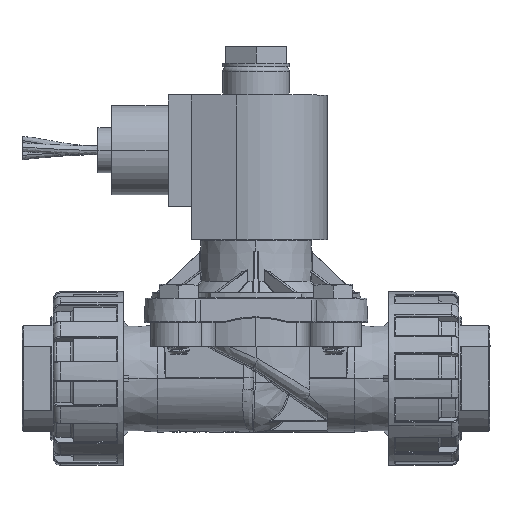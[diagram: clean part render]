
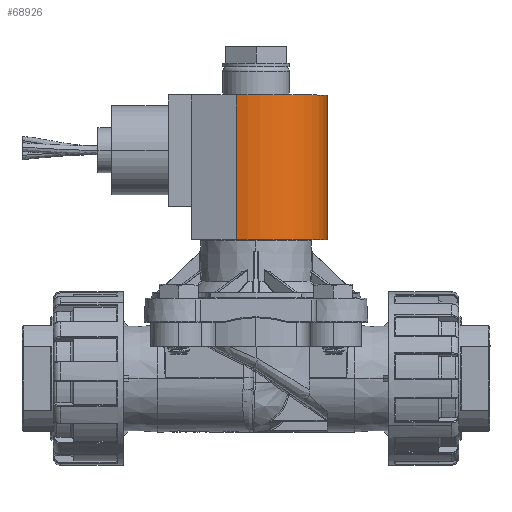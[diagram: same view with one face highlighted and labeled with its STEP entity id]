
A CAD part, top view. The second image highlights one B-rep face of the part: STEP entity #68926.
In plain terms, the highlighted cylindrical face has radius 20.32 mm (diameter 40.64 mm), a partial arc.
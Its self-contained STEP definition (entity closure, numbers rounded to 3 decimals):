
#1254 = EDGE_LOOP ( 'NONE', ( #81532, #34075, #15244, #60903 ) ) ;
#12976 = LINE ( 'NONE', #23548, #120810 ) ;
#15244 = ORIENTED_EDGE ( 'NONE', *, *, #41718, .T. ) ;
#15253 = EDGE_CURVE ( 'NONE', #122738, #48777, #97317, .T. ) ;
#15460 = CARTESIAN_POINT ( 'NONE',  ( 0., 32.36, 0. ) ) ;
#17108 = CARTESIAN_POINT ( 'NONE',  ( 0., 73.508, 0. ) ) ;
#23548 = CARTESIAN_POINT ( 'NONE',  ( 20.32, 73.508, 0. ) ) ;
#25867 = DIRECTION ( 'NONE',  ( -1., 0., 0. ) ) ;
#27610 = LINE ( 'NONE', #46953, #95103 ) ;
#30713 = VERTEX_POINT ( 'NONE', #44793 ) ;
#30717 = DIRECTION ( 'NONE',  ( 0., -1., 0. ) ) ;
#31863 = AXIS2_PLACEMENT_3D ( 'NONE', #17108, #63329, #25867 ) ;
#34075 = ORIENTED_EDGE ( 'NONE', *, *, #50076, .F. ) ;
#35393 = DIRECTION ( 'NONE',  ( -1., 0., 0. ) ) ;
#41718 = EDGE_CURVE ( 'NONE', #68550, #122738, #27610, .T. ) ;
#44793 = CARTESIAN_POINT ( 'NONE',  ( 20.32, 73.508, 0. ) ) ;
#46953 = CARTESIAN_POINT ( 'NONE',  ( -5.608, 73.508, 19.531 ) ) ;
#47654 = CARTESIAN_POINT ( 'NONE',  ( -5.608, 32.36, 19.531 ) ) ;
#48777 = VERTEX_POINT ( 'NONE', #49024 ) ;
#49024 = CARTESIAN_POINT ( 'NONE',  ( 20.32, 32.36, 0. ) ) ;
#50076 = EDGE_CURVE ( 'NONE', #68550, #30713, #51714, .T. ) ;
#51714 = CIRCLE ( 'NONE', #31863, 20.32 ) ;
#60903 = ORIENTED_EDGE ( 'NONE', *, *, #15253, .T. ) ;
#63329 = DIRECTION ( 'NONE',  ( 0., 1., 0. ) ) ;
#66451 = CARTESIAN_POINT ( 'NONE',  ( -5.608, 73.508, 19.531 ) ) ;
#68550 = VERTEX_POINT ( 'NONE', #66451 ) ;
#68764 = DIRECTION ( 'NONE',  ( 1., 0., 0. ) ) ;
#68926 = ADVANCED_FACE ( 'Defeatured_0_1792', ( #115556 ), #116185, .T. ) ;
#76253 = CARTESIAN_POINT ( 'NONE',  ( 0., 73.508, 0. ) ) ;
#78171 = AXIS2_PLACEMENT_3D ( 'NONE', #76253, #30717, #68764 ) ;
#79082 = DIRECTION ( 'NONE',  ( 0., -1., 0. ) ) ;
#80896 = EDGE_CURVE ( 'NONE', #30713, #48777, #12976, .T. ) ;
#81532 = ORIENTED_EDGE ( 'NONE', *, *, #80896, .F. ) ;
#95103 = VECTOR ( 'NONE', #114299, 1000. ) ;
#97317 = CIRCLE ( 'NONE', #107246, 20.32 ) ;
#107246 = AXIS2_PLACEMENT_3D ( 'NONE', #15460, #120862, #35393 ) ;
#114299 = DIRECTION ( 'NONE',  ( 0., -1., 0. ) ) ;
#115556 = FACE_OUTER_BOUND ( 'NONE', #1254, .T. ) ;
#116185 = CYLINDRICAL_SURFACE ( 'NONE', #78171, 20.32 ) ;
#120810 = VECTOR ( 'NONE', #79082, 1000. ) ;
#120862 = DIRECTION ( 'NONE',  ( 0., 1., 0. ) ) ;
#122738 = VERTEX_POINT ( 'NONE', #47654 ) ;
